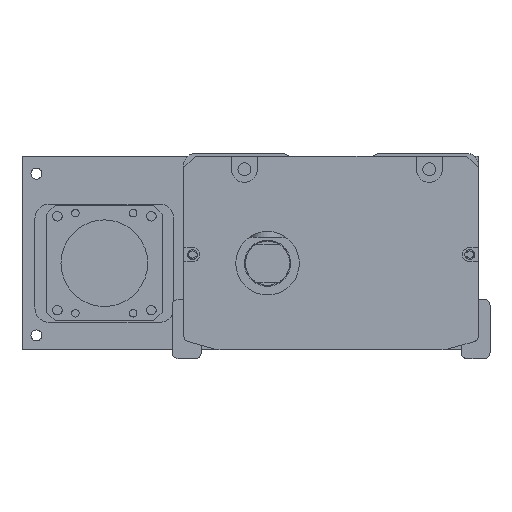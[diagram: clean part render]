
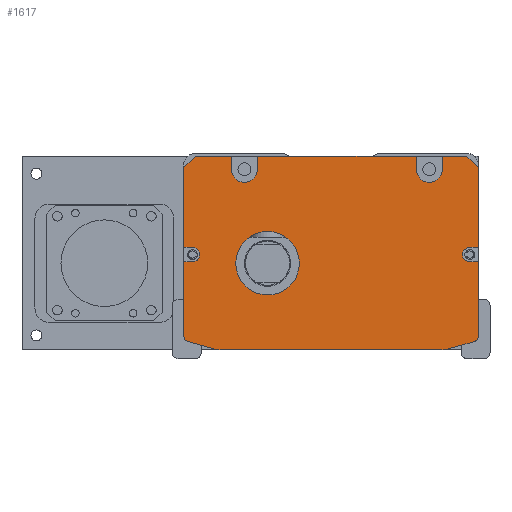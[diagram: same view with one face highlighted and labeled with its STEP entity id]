
A CAD part, front view. The second image highlights one B-rep face of the part: STEP entity #1617.
In plain terms, the highlighted planar face has unit normal (0, -1, 0).
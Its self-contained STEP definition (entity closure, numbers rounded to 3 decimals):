
#1617=ADVANCED_FACE('',(#3358,#3359),#2287,.F.);
#2287=PLANE('',#13431);
#2760=CIRCLE('',#13422,4.5);
#2761=CIRCLE('',#13423,4.5);
#2762=CIRCLE('',#13424,2.5);
#2763=CIRCLE('',#13425,2.);
#2764=CIRCLE('',#13426,10.);
#2765=CIRCLE('',#13427,10.);
#2766=CIRCLE('',#13428,2.);
#2767=CIRCLE('',#13429,2.5);
#2768=CIRCLE('',#13430,11.);
#3358=FACE_BOUND('',#4042,.T.);
#3359=FACE_BOUND('',#4043,.T.);
#4042=EDGE_LOOP('',(#5894,#5895,#5896,#5897,#5898,#5899,#5900,#5901,#5902,
#5903,#5904,#5905,#5906,#5907,#5908,#5909,#5910,#5911,#5912,#5913,#5914,
#5915,#5916,#5917,#5918,#5919,#5920,#5921));
#4043=EDGE_LOOP('',(#5922));
#5894=ORIENTED_EDGE('',*,*,#9738,.T.);
#5895=ORIENTED_EDGE('',*,*,#10222,.T.);
#5896=ORIENTED_EDGE('',*,*,#10223,.T.);
#5897=ORIENTED_EDGE('',*,*,#10224,.F.);
#5898=ORIENTED_EDGE('',*,*,#10225,.T.);
#5899=ORIENTED_EDGE('',*,*,#10226,.F.);
#5900=ORIENTED_EDGE('',*,*,#10227,.T.);
#5901=ORIENTED_EDGE('',*,*,#10228,.F.);
#5902=ORIENTED_EDGE('',*,*,#10229,.T.);
#5903=ORIENTED_EDGE('',*,*,#10230,.F.);
#5904=ORIENTED_EDGE('',*,*,#10231,.T.);
#5905=ORIENTED_EDGE('',*,*,#10232,.T.);
#5906=ORIENTED_EDGE('',*,*,#9756,.T.);
#5907=ORIENTED_EDGE('',*,*,#10233,.T.);
#5908=ORIENTED_EDGE('',*,*,#10234,.T.);
#5909=ORIENTED_EDGE('',*,*,#10235,.T.);
#5910=ORIENTED_EDGE('',*,*,#9752,.T.);
#5911=ORIENTED_EDGE('',*,*,#10236,.T.);
#5912=ORIENTED_EDGE('',*,*,#10237,.T.);
#5913=ORIENTED_EDGE('',*,*,#10238,.T.);
#5914=ORIENTED_EDGE('',*,*,#10239,.T.);
#5915=ORIENTED_EDGE('',*,*,#10240,.T.);
#5916=ORIENTED_EDGE('',*,*,#10241,.T.);
#5917=ORIENTED_EDGE('',*,*,#10242,.T.);
#5918=ORIENTED_EDGE('',*,*,#9742,.T.);
#5919=ORIENTED_EDGE('',*,*,#10243,.T.);
#5920=ORIENTED_EDGE('',*,*,#10244,.T.);
#5921=ORIENTED_EDGE('',*,*,#10245,.T.);
#5922=ORIENTED_EDGE('',*,*,#10246,.T.);
#8479=VERTEX_POINT('',#18569);
#8480=VERTEX_POINT('',#18571);
#8483=VERTEX_POINT('',#18577);
#8484=VERTEX_POINT('',#18579);
#8493=VERTEX_POINT('',#18598);
#8494=VERTEX_POINT('',#18600);
#8497=VERTEX_POINT('',#18606);
#8498=VERTEX_POINT('',#18608);
#8824=VERTEX_POINT('',#19601);
#8825=VERTEX_POINT('',#19603);
#8826=VERTEX_POINT('',#19605);
#8827=VERTEX_POINT('',#19607);
#8828=VERTEX_POINT('',#19609);
#8829=VERTEX_POINT('',#19611);
#8830=VERTEX_POINT('',#19613);
#8831=VERTEX_POINT('',#19615);
#8832=VERTEX_POINT('',#19617);
#8833=VERTEX_POINT('',#19619);
#8834=VERTEX_POINT('',#19622);
#8835=VERTEX_POINT('',#19624);
#8836=VERTEX_POINT('',#19627);
#8837=VERTEX_POINT('',#19629);
#8838=VERTEX_POINT('',#19631);
#8839=VERTEX_POINT('',#19633);
#8840=VERTEX_POINT('',#19635);
#8841=VERTEX_POINT('',#19637);
#8842=VERTEX_POINT('',#19640);
#8843=VERTEX_POINT('',#19642);
#8844=VERTEX_POINT('',#19645);
#9738=EDGE_CURVE('',#8480,#8479,#11428,.T.);
#9742=EDGE_CURVE('',#8484,#8483,#11432,.T.);
#9752=EDGE_CURVE('',#8494,#8493,#11442,.T.);
#9756=EDGE_CURVE('',#8498,#8497,#11446,.T.);
#10222=EDGE_CURVE('',#8479,#8824,#11715,.T.);
#10223=EDGE_CURVE('',#8824,#8825,#11716,.T.);
#10224=EDGE_CURVE('',#8826,#8825,#11717,.T.);
#10225=EDGE_CURVE('',#8826,#8827,#2760,.T.);
#10226=EDGE_CURVE('',#8828,#8827,#11718,.T.);
#10227=EDGE_CURVE('',#8828,#8829,#11719,.T.);
#10228=EDGE_CURVE('',#8830,#8829,#11720,.T.);
#10229=EDGE_CURVE('',#8830,#8831,#2761,.T.);
#10230=EDGE_CURVE('',#8832,#8831,#11721,.T.);
#10231=EDGE_CURVE('',#8832,#8833,#11722,.T.);
#10232=EDGE_CURVE('',#8833,#8498,#11723,.T.);
#10233=EDGE_CURVE('',#8497,#8834,#11724,.T.);
#10234=EDGE_CURVE('',#8834,#8835,#2762,.T.);
#10235=EDGE_CURVE('',#8835,#8494,#11725,.T.);
#10236=EDGE_CURVE('',#8493,#8836,#2763,.T.);
#10237=EDGE_CURVE('',#8836,#8837,#11726,.T.);
#10238=EDGE_CURVE('',#8837,#8838,#2764,.T.);
#10239=EDGE_CURVE('',#8838,#8839,#11727,.T.);
#10240=EDGE_CURVE('',#8839,#8840,#2765,.T.);
#10241=EDGE_CURVE('',#8840,#8841,#11728,.T.);
#10242=EDGE_CURVE('',#8841,#8484,#2766,.T.);
#10243=EDGE_CURVE('',#8483,#8842,#11729,.T.);
#10244=EDGE_CURVE('',#8842,#8843,#2767,.T.);
#10245=EDGE_CURVE('',#8843,#8480,#11730,.T.);
#10246=EDGE_CURVE('',#8844,#8844,#2768,.T.);
#11428=LINE('',#18570,#12227);
#11432=LINE('',#18578,#12231);
#11442=LINE('',#18599,#12241);
#11446=LINE('',#18607,#12245);
#11715=LINE('',#19600,#12514);
#11716=LINE('',#19602,#12515);
#11717=LINE('',#19604,#12516);
#11718=LINE('',#19608,#12517);
#11719=LINE('',#19610,#12518);
#11720=LINE('',#19612,#12519);
#11721=LINE('',#19616,#12520);
#11722=LINE('',#19618,#12521);
#11723=LINE('',#19620,#12522);
#11724=LINE('',#19621,#12523);
#11725=LINE('',#19625,#12524);
#11726=LINE('',#19628,#12525);
#11727=LINE('',#19632,#12526);
#11728=LINE('',#19636,#12527);
#11729=LINE('',#19639,#12528);
#11730=LINE('',#19643,#12529);
#12227=VECTOR('',#14649,1.);
#12231=VECTOR('',#14653,1.);
#12241=VECTOR('',#14665,1.);
#12245=VECTOR('',#14669,1.);
#12514=VECTOR('',#15734,1.);
#12515=VECTOR('',#15735,1.);
#12516=VECTOR('',#15736,1.);
#12517=VECTOR('',#15739,1.);
#12518=VECTOR('',#15740,1.);
#12519=VECTOR('',#15741,1.);
#12520=VECTOR('',#15744,1.);
#12521=VECTOR('',#15745,1.);
#12522=VECTOR('',#15746,1.);
#12523=VECTOR('',#15747,1.);
#12524=VECTOR('',#15750,1.);
#12525=VECTOR('',#15753,1.);
#12526=VECTOR('',#15756,1.);
#12527=VECTOR('',#15759,1.);
#12528=VECTOR('',#15762,1.);
#12529=VECTOR('',#15765,1.);
#13422=AXIS2_PLACEMENT_3D('',#19606,#15737,#15738);
#13423=AXIS2_PLACEMENT_3D('',#19614,#15742,#15743);
#13424=AXIS2_PLACEMENT_3D('',#19623,#15748,#15749);
#13425=AXIS2_PLACEMENT_3D('',#19626,#15751,#15752);
#13426=AXIS2_PLACEMENT_3D('',#19630,#15754,#15755);
#13427=AXIS2_PLACEMENT_3D('',#19634,#15757,#15758);
#13428=AXIS2_PLACEMENT_3D('',#19638,#15760,#15761);
#13429=AXIS2_PLACEMENT_3D('',#19641,#15763,#15764);
#13430=AXIS2_PLACEMENT_3D('',#19644,#15766,#15767);
#13431=AXIS2_PLACEMENT_3D('',#19646,#15768,#15769);
#14649=DIRECTION('',(0.,0.,1.));
#14653=DIRECTION('',(0.,0.,1.));
#14665=DIRECTION('',(0.,0.,-1.));
#14669=DIRECTION('',(0.,0.,-1.));
#15734=DIRECTION('',(-0.707,0.,0.707));
#15735=DIRECTION('',(-1.,0.,0.));
#15736=DIRECTION('',(0.,0.,1.));
#15737=DIRECTION('',(0.,1.,0.));
#15738=DIRECTION('',(0.,0.,1.));
#15739=DIRECTION('',(0.,0.,-1.));
#15740=DIRECTION('',(-1.,0.,0.));
#15741=DIRECTION('',(0.,0.,1.));
#15742=DIRECTION('',(0.,1.,0.));
#15743=DIRECTION('',(0.,0.,1.));
#15744=DIRECTION('',(0.,0.,-1.));
#15745=DIRECTION('',(-1.,0.,0.));
#15746=DIRECTION('',(-0.707,0.,-0.707));
#15747=DIRECTION('',(1.,0.,0.));
#15748=DIRECTION('',(0.,1.,0.));
#15749=DIRECTION('',(0.,0.,1.));
#15750=DIRECTION('',(-1.,0.,0.));
#15751=DIRECTION('',(0.,-1.,0.));
#15752=DIRECTION('',(0.,0.,1.));
#15753=DIRECTION('',(0.963,0.,-0.269));
#15754=DIRECTION('',(0.,-1.,0.));
#15755=DIRECTION('',(0.,0.,1.));
#15756=DIRECTION('',(1.,0.,0.));
#15757=DIRECTION('',(0.,-1.,0.));
#15758=DIRECTION('',(0.,0.,-1.));
#15759=DIRECTION('',(0.963,0.,0.269));
#15760=DIRECTION('',(0.,-1.,0.));
#15761=DIRECTION('',(0.,0.,-1.));
#15762=DIRECTION('',(-1.,0.,0.));
#15763=DIRECTION('',(0.,1.,0.));
#15764=DIRECTION('',(0.,0.,1.));
#15765=DIRECTION('',(1.,0.,0.));
#15766=DIRECTION('',(0.,1.,0.));
#15767=DIRECTION('',(0.,0.,1.));
#15768=DIRECTION('',(0.,1.,0.));
#15769=DIRECTION('',(1.,0.,0.));
#18569=CARTESIAN_POINT('',(47.808,-117.5,-5.));
#18570=CARTESIAN_POINT('',(47.808,-117.5,-1.));
#18571=CARTESIAN_POINT('',(47.808,-117.5,-32.5));
#18577=CARTESIAN_POINT('',(47.808,-117.5,-37.5));
#18578=CARTESIAN_POINT('',(47.808,-117.5,-1.));
#18579=CARTESIAN_POINT('',(47.808,-117.5,-63.212));
#18598=CARTESIAN_POINT('',(-54.192,-117.5,-63.212));
#18599=CARTESIAN_POINT('',(-54.192,-117.5,-62.));
#18600=CARTESIAN_POINT('',(-54.192,-117.5,-37.5));
#18606=CARTESIAN_POINT('',(-54.192,-117.5,-32.5));
#18607=CARTESIAN_POINT('',(-54.192,-117.5,-62.));
#18608=CARTESIAN_POINT('',(-54.192,-117.5,-5.));
#19600=CARTESIAN_POINT('',(43.808,-117.5,-1.));
#19601=CARTESIAN_POINT('',(43.808,-117.5,-1.));
#19602=CARTESIAN_POINT('',(-3.192,-117.5,-1.));
#19603=CARTESIAN_POINT('',(35.308,-117.5,-1.));
#19604=CARTESIAN_POINT('',(35.308,-117.5,-1.));
#19605=CARTESIAN_POINT('',(35.308,-117.5,-5.5));
#19606=CARTESIAN_POINT('',(30.808,-117.5,-5.5));
#19607=CARTESIAN_POINT('',(26.308,-117.5,-5.5));
#19608=CARTESIAN_POINT('',(26.308,-117.5,-1.));
#19609=CARTESIAN_POINT('',(26.308,-117.5,-1.));
#19610=CARTESIAN_POINT('',(-54.192,-117.5,-1.));
#19611=CARTESIAN_POINT('',(-28.692,-117.5,-1.));
#19612=CARTESIAN_POINT('',(-28.692,-117.5,-3.5));
#19613=CARTESIAN_POINT('',(-28.692,-117.5,-5.5));
#19614=CARTESIAN_POINT('',(-33.192,-117.5,-5.5));
#19615=CARTESIAN_POINT('',(-37.692,-117.5,-5.5));
#19616=CARTESIAN_POINT('',(-37.692,-117.5,-1.));
#19617=CARTESIAN_POINT('',(-37.692,-117.5,-1.));
#19618=CARTESIAN_POINT('',(-54.192,-117.5,-1.));
#19619=CARTESIAN_POINT('',(-50.192,-117.5,-1.));
#19620=CARTESIAN_POINT('',(-54.192,-117.5,-5.));
#19621=CARTESIAN_POINT('',(-3.192,-117.5,-32.5));
#19622=CARTESIAN_POINT('',(-51.192,-117.5,-32.5));
#19623=CARTESIAN_POINT('',(-51.192,-117.5,-35.));
#19624=CARTESIAN_POINT('',(-51.192,-117.5,-37.5));
#19625=CARTESIAN_POINT('',(-3.192,-117.5,-37.5));
#19626=CARTESIAN_POINT('',(-52.192,-117.5,-63.212));
#19627=CARTESIAN_POINT('',(-52.731,-117.5,-65.138));
#19628=CARTESIAN_POINT('',(-55.807,-117.5,-64.279));
#19629=CARTESIAN_POINT('',(-43.809,-117.5,-67.631));
#19630=CARTESIAN_POINT('',(-41.118,-117.5,-58.));
#19631=CARTESIAN_POINT('',(-41.118,-117.5,-68.));
#19632=CARTESIAN_POINT('',(-54.692,-117.5,-68.));
#19633=CARTESIAN_POINT('',(34.733,-117.5,-68.));
#19634=CARTESIAN_POINT('',(34.733,-117.5,-58.));
#19635=CARTESIAN_POINT('',(37.424,-117.5,-67.631));
#19636=CARTESIAN_POINT('',(49.422,-117.5,-64.279));
#19637=CARTESIAN_POINT('',(46.346,-117.5,-65.138));
#19638=CARTESIAN_POINT('',(45.808,-117.5,-63.212));
#19639=CARTESIAN_POINT('',(-3.192,-117.5,-37.5));
#19640=CARTESIAN_POINT('',(44.808,-117.5,-37.5));
#19641=CARTESIAN_POINT('',(44.808,-117.5,-35.));
#19642=CARTESIAN_POINT('',(44.808,-117.5,-32.5));
#19643=CARTESIAN_POINT('',(-3.192,-117.5,-32.5));
#19644=CARTESIAN_POINT('',(-25.192,-117.5,-38.));
#19645=CARTESIAN_POINT('',(-25.192,-117.5,-27.));
#19646=CARTESIAN_POINT('',(-3.192,-117.5,-1.));
